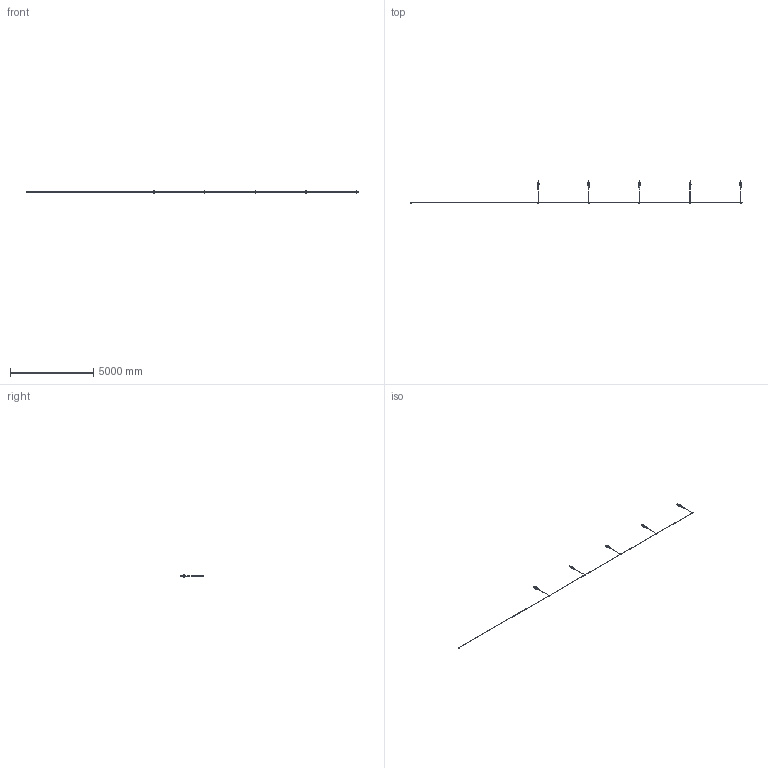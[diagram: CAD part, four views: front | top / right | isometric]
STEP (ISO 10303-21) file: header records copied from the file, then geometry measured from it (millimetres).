
FILE_DESCRIPTION (( 'STEP AP203' ), '1' );
FILE_NAME ('EPL-SL-5 STEP.STEP', '2014-03-07T19:08:46', ( 'Rob' ), ( '' ), 'SwSTEP 2.0', 'SolidWorks 2013', '' );
FILE_SCHEMA (( 'CONFIG_CONTROL_DESIGN' ));
Length unit declared in the file: inch
Products named in the file (7): EPL-120V-DW Part; EPL-SL Wire connection T with 10 ft wire; 15 amp exp plug with 25 ft cord assembly; 15A Explosion proof plug part; assembly; EPL-SL Wire connection T; EPL-SL-5 STEP
Assembly tree (13 placements, depth 3):
  EPL-SL-5 STEP
    EPL-120V-DW Part  x5
    EPL-SL Wire connection T with 10 ft wire  x4
    assembly
      15 amp exp plug with 25 ft cord assembly
      15A Explosion proof plug part
    EPL-SL Wire connection T
Bounding box: 19976.72 x 1338.34 x 126.87 mm (x, y, z)
Volume: 12297973.5 mm3; surface area: 1876623.3 mm2
Topology: 12 solids, 12 shells, 1614 faces, 3987 edges, 2435 vertices
Faces by surface type: plane 602, cylinder 458, cone 218, sphere 134, torus 102, bspline 100
Entity records: 20153 total; most frequent: CARTESIAN_POINT 7398, DIRECTION 2534, ORIENTED_EDGE 2466, EDGE_CURVE 1233, AXIS2_PLACEMENT_3D 1035, VERTEX_POINT 767, EDGE_LOOP 544, CIRCLE 533
